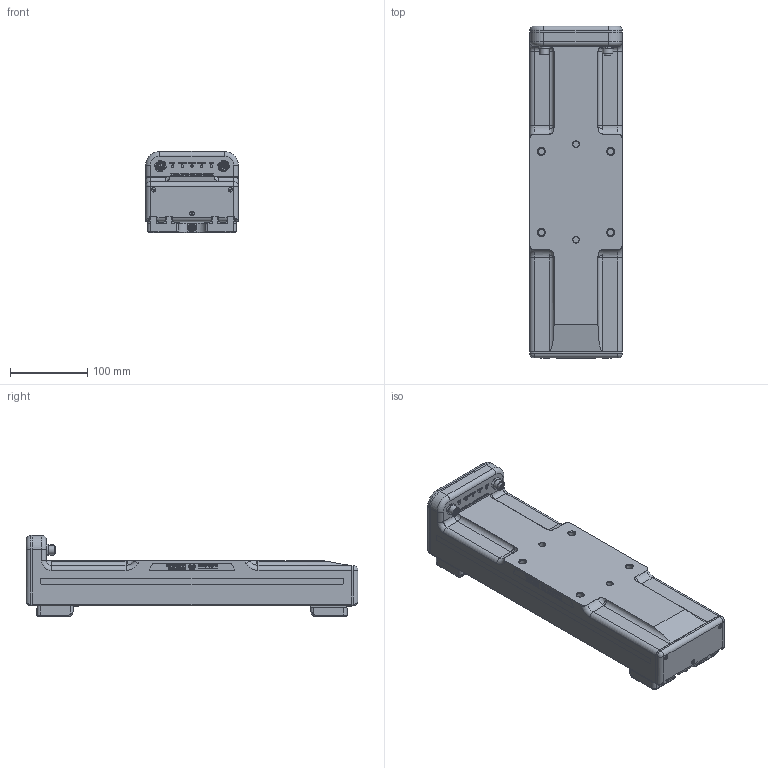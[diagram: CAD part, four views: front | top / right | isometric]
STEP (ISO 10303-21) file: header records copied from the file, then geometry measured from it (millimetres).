
FILE_DESCRIPTION(/* description */ (''),/* implementation_level */ '2;1');
FILE_NAME(/* name */ 'H:\intrapal\Mechanik\INTRAPAL 1200-280\Modell\Konturvereinfachung\Export\INTRAPAL1200-280_Customer.stp',/* time_stamp */ '2025-11-13T14:18:38+01:00',/* author */ ('Weiss Robotics GmbH & Co. KG'),/* organization */ (''),/* preprocessor_version */ 'ST-DEVELOPER v17',/* originating_system */ 'Autodesk Inventor 2018',/* authorisation */ '');
FILE_SCHEMA (('AUTOMOTIVE_DESIGN { 1 0 10303 214 3 1 1 }'));
Products named in the file (3): INTRAPAL 600-280 Customer; Grundkörper; Grundbacke
Assembly tree (2 placements, depth 2):
  INTRAPAL 600-280 Customer
    Grundkörper
    Grundbacke
Bounding box: 120 x 430 x 105 mm (x, y, z)
Volume: 3028010.4 mm3; surface area: 256401.1 mm2
Topology: 31 solids, 31 shells, 4077 faces, 10910 edges, 7296 vertices
Faces by surface type: plane 1848, bspline 1551, cylinder 583, cone 73, torus 20, sphere 2
Full cylindrical faces by diameter (mm): 0.9 x4, 1 x5, 1.1 x12, 3.3 x10, 4 x1, 4.01 x8, 4.917 x16, 5.5 x24, 5.6 x5, 5.8 x8, 7.1 x2, 8.01 x2, 8.376 x4, 9.4 x2, 11 x1, 12 x1, 13.5 x1
Entity records: 157746 total; most frequent: CARTESIAN_POINT 64501, ORIENTED_EDGE 21800, DIRECTION 14323, EDGE_CURVE 10900, VERTEX_POINT 7296, LINE 6299, VECTOR 6299, EDGE_LOOP 4490
